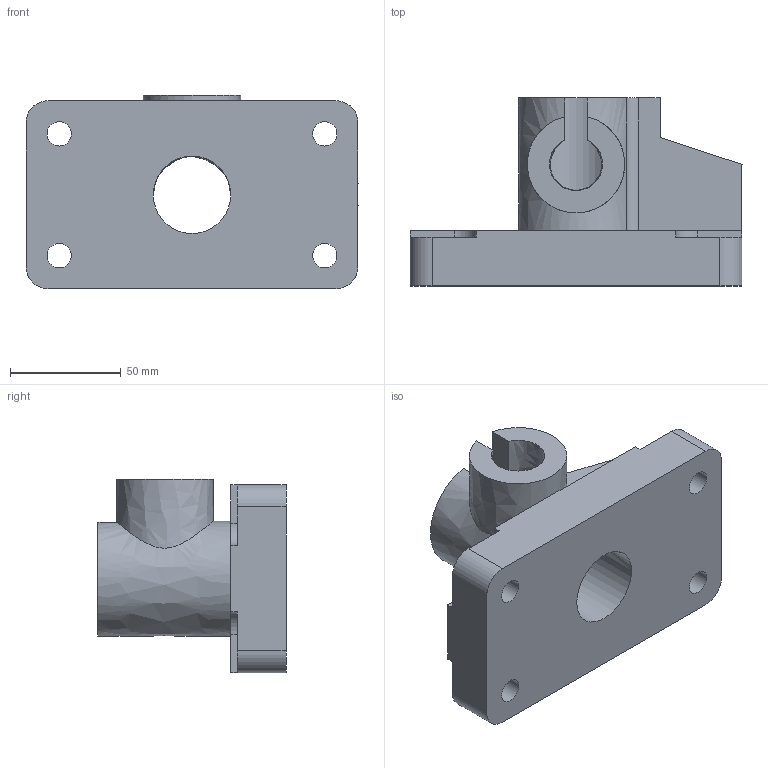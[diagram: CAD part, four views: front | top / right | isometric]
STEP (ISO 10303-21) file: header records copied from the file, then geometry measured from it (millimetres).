
FILE_DESCRIPTION((' '),'2;1');
FILE_NAME( '3X+2_02_Flange_Workpiece.STEP', '2022-03-16T09:36:42', (' '), ('--- Datakit www.datakit.com---'), ' Datakit CrossCadWare V2022.1 Dec 18 2021', 'GO2cam V6.09', ' ');
FILE_SCHEMA(('AUTOMOTIVE_DESIGN { 1 0 10303 214 1 1 1 1 }'));
Length unit declared in the file: millimetre
Products named in the file (1): part
Bounding box: 150 x 85 x 87.5 mm (x, y, z)
Volume: 397947 mm3; surface area: 65287.2 mm2
Topology: 1 solids, 1 shells, 68 faces, 199 edges, 132 vertices
Faces by surface type: bspline 46, plane 22
Entity records: 3124 total; most frequent: CARTESIAN_POINT 1479, ORIENTED_EDGE 390, DIRECTION 264, EDGE_CURVE 195, VERTEX_POINT 132, VECTOR 102, LINE 102, AXIS2_PLACEMENT_3D 81
